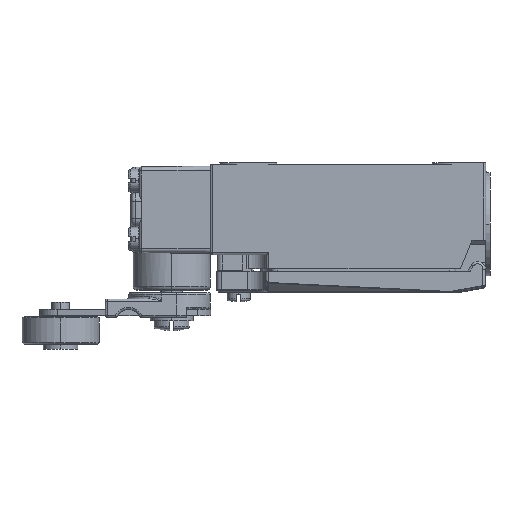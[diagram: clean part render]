
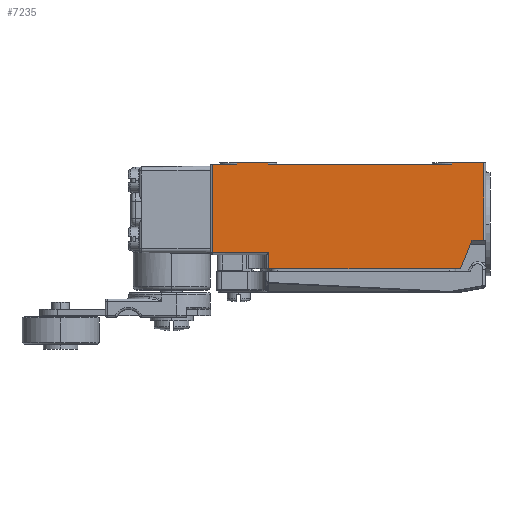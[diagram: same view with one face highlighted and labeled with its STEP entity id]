
A CAD part, left-side view. The second image highlights one B-rep face of the part: STEP entity #7235.
In plain terms, the highlighted planar face has unit normal (-1, 0, 0).
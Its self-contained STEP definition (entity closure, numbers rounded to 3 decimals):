
#1404=B_SPLINE_CURVE_WITH_KNOTS('',3,(#44878,#44879,#44880,#44881),
 .UNSPECIFIED.,.F.,.F.,(4,4),(0.,1.),.UNSPECIFIED.);
#1405=B_SPLINE_CURVE_WITH_KNOTS('',3,(#44998,#44999,#45000,#45001),
 .UNSPECIFIED.,.F.,.F.,(4,4),(0.,1.),.UNSPECIFIED.);
#1406=B_SPLINE_CURVE_WITH_KNOTS('',3,(#45002,#45003,#45004,#45005),
 .UNSPECIFIED.,.F.,.F.,(4,4),(0.,1.),.UNSPECIFIED.);
#1407=B_SPLINE_CURVE_WITH_KNOTS('',3,(#45007,#45008,#45009,#45010),
 .UNSPECIFIED.,.F.,.F.,(4,4),(0.,1.),.UNSPECIFIED.);
#1408=B_SPLINE_CURVE_WITH_KNOTS('',3,(#45012,#45013,#45014,#45015),
 .UNSPECIFIED.,.F.,.F.,(4,4),(0.,1.),.UNSPECIFIED.);
#1409=B_SPLINE_CURVE_WITH_KNOTS('',3,(#45023,#45024,#45025,#45026),
 .UNSPECIFIED.,.F.,.F.,(4,4),(0.,1.),.UNSPECIFIED.);
#1410=B_SPLINE_CURVE_WITH_KNOTS('',3,(#45027,#45028,#45029,#45030),
 .UNSPECIFIED.,.F.,.F.,(4,4),(0.,1.),.UNSPECIFIED.);
#1411=B_SPLINE_CURVE_WITH_KNOTS('',3,(#45031,#45032,#45033,#45034),
 .UNSPECIFIED.,.F.,.F.,(4,4),(0.,1.),.UNSPECIFIED.);
#2234=LINE('',#44862,#4809);
#2271=LINE('',#44981,#4846);
#2276=LINE('',#44995,#4851);
#2277=LINE('',#45017,#4852);
#2278=LINE('',#45019,#4853);
#2279=LINE('',#45021,#4854);
#4809=VECTOR('',#34761,1.);
#4846=VECTOR('',#34872,1.);
#4851=VECTOR('',#34883,1.);
#4852=VECTOR('',#34884,1.);
#4853=VECTOR('',#34885,1.);
#4854=VECTOR('',#34886,1.);
#7235=ADVANCED_FACE('',(#9692),#8817,.F.);
#8817=PLANE('',#31170);
#9692=FACE_OUTER_BOUND('',#11281,.T.);
#11281=EDGE_LOOP('',(#13823,#13824,#13825,#13826,#13827,#13828,#13829,#13830,
#13831,#13832,#13833,#13834,#13835,#13836));
#13823=ORIENTED_EDGE('',*,*,#25536,.F.);
#13824=ORIENTED_EDGE('',*,*,#25537,.F.);
#13825=ORIENTED_EDGE('',*,*,#25472,.F.);
#13826=ORIENTED_EDGE('',*,*,#25538,.T.);
#13827=ORIENTED_EDGE('',*,*,#25539,.T.);
#13828=ORIENTED_EDGE('',*,*,#25540,.T.);
#13829=ORIENTED_EDGE('',*,*,#25541,.T.);
#13830=ORIENTED_EDGE('',*,*,#25542,.F.);
#13831=ORIENTED_EDGE('',*,*,#25543,.F.);
#13832=ORIENTED_EDGE('',*,*,#25544,.T.);
#13833=ORIENTED_EDGE('',*,*,#25529,.F.);
#13834=ORIENTED_EDGE('',*,*,#25545,.T.);
#13835=ORIENTED_EDGE('',*,*,#25480,.F.);
#13836=ORIENTED_EDGE('',*,*,#25546,.T.);
#22316=VERTEX_POINT('',#44861);
#22317=VERTEX_POINT('',#44863);
#22324=VERTEX_POINT('',#44877);
#22325=VERTEX_POINT('',#44882);
#22356=VERTEX_POINT('',#44978);
#22357=VERTEX_POINT('',#44980);
#22364=VERTEX_POINT('',#44996);
#22365=VERTEX_POINT('',#44997);
#22366=VERTEX_POINT('',#45006);
#22367=VERTEX_POINT('',#45011);
#22368=VERTEX_POINT('',#45016);
#22369=VERTEX_POINT('',#45018);
#22370=VERTEX_POINT('',#45020);
#22371=VERTEX_POINT('',#45022);
#25472=EDGE_CURVE('',#22316,#22317,#2234,.T.);
#25480=EDGE_CURVE('',#22324,#22325,#1404,.T.);
#25529=EDGE_CURVE('',#22357,#22356,#2271,.T.);
#25536=EDGE_CURVE('',#22364,#22365,#2276,.T.);
#25537=EDGE_CURVE('',#22317,#22364,#1405,.T.);
#25538=EDGE_CURVE('',#22316,#22366,#1406,.T.);
#25539=EDGE_CURVE('',#22366,#22367,#1407,.T.);
#25540=EDGE_CURVE('',#22367,#22368,#1408,.T.);
#25541=EDGE_CURVE('',#22368,#22369,#2277,.T.);
#25542=EDGE_CURVE('',#22370,#22369,#2278,.T.);
#25543=EDGE_CURVE('',#22371,#22370,#2279,.T.);
#25544=EDGE_CURVE('',#22371,#22356,#1409,.T.);
#25545=EDGE_CURVE('',#22357,#22325,#1410,.T.);
#25546=EDGE_CURVE('',#22324,#22365,#1411,.T.);
#31170=AXIS2_PLACEMENT_3D('',#45035,#34887,#34888);
#34761=DIRECTION('',(0.,-1.,0.));
#34872=DIRECTION('',(0.,-1.,0.));
#34883=DIRECTION('',(0.,-1.,0.));
#34884=DIRECTION('',(0.,-1.,0.));
#34885=DIRECTION('',(0.,0.371,-0.928));
#34886=DIRECTION('',(0.,1.,0.));
#34887=DIRECTION('',(1.,0.,0.));
#34888=DIRECTION('',(0.,1.,0.));
#44861=CARTESIAN_POINT('',(160.488,12.728,24.587));
#44862=CARTESIAN_POINT('',(160.488,-50.973,24.587));
#44863=CARTESIAN_POINT('',(160.488,7.025,24.587));
#44877=CARTESIAN_POINT('',(160.488,-0.294,24.587));
#44878=CARTESIAN_POINT('',(160.488,-0.294,24.587));
#44879=CARTESIAN_POINT('',(160.488,-14.536,24.587));
#44880=CARTESIAN_POINT('',(160.488,-28.778,24.587));
#44881=CARTESIAN_POINT('',(160.488,-43.02,24.587));
#44882=CARTESIAN_POINT('',(160.488,-43.021,24.587));
#44978=CARTESIAN_POINT('',(160.488,-50.474,24.937));
#44980=CARTESIAN_POINT('',(160.488,-43.022,24.937));
#44981=CARTESIAN_POINT('',(160.488,-43.023,24.937));
#44995=CARTESIAN_POINT('',(160.488,7.028,24.937));
#44996=CARTESIAN_POINT('',(160.488,7.026,24.937));
#44997=CARTESIAN_POINT('',(160.488,-0.297,24.937));
#44998=CARTESIAN_POINT('',(160.488,7.025,24.587));
#44999=CARTESIAN_POINT('',(160.488,7.025,24.704));
#45000=CARTESIAN_POINT('',(160.488,7.026,24.82));
#45001=CARTESIAN_POINT('',(160.488,7.026,24.937));
#45002=CARTESIAN_POINT('',(160.488,12.728,24.587));
#45003=CARTESIAN_POINT('',(160.488,12.727,17.737));
#45004=CARTESIAN_POINT('',(160.488,12.727,10.887));
#45005=CARTESIAN_POINT('',(160.488,12.727,4.037));
#45006=CARTESIAN_POINT('',(160.488,12.727,4.037));
#45007=CARTESIAN_POINT('',(160.488,12.727,4.037));
#45008=CARTESIAN_POINT('',(160.488,8.36,4.037));
#45009=CARTESIAN_POINT('',(160.488,3.993,4.037));
#45010=CARTESIAN_POINT('',(160.488,-0.374,4.037));
#45011=CARTESIAN_POINT('',(160.488,-0.374,4.037));
#45012=CARTESIAN_POINT('',(160.488,-0.374,4.037));
#45013=CARTESIAN_POINT('',(160.488,-0.374,2.754));
#45014=CARTESIAN_POINT('',(160.488,-0.374,1.47));
#45015=CARTESIAN_POINT('',(160.488,-0.374,0.187));
#45016=CARTESIAN_POINT('',(160.488,-0.374,0.187));
#45017=CARTESIAN_POINT('',(160.488,7.028,0.187));
#45018=CARTESIAN_POINT('',(160.488,-45.093,0.187));
#45019=CARTESIAN_POINT('',(160.488,-46.439,3.55));
#45020=CARTESIAN_POINT('',(160.488,-47.773,6.887));
#45021=CARTESIAN_POINT('',(160.488,7.028,6.887));
#45022=CARTESIAN_POINT('',(160.488,-50.474,6.887));
#45023=CARTESIAN_POINT('',(160.488,-50.474,6.887));
#45024=CARTESIAN_POINT('',(160.488,-50.474,12.904));
#45025=CARTESIAN_POINT('',(160.488,-50.474,18.92));
#45026=CARTESIAN_POINT('',(160.488,-50.474,24.937));
#45027=CARTESIAN_POINT('',(160.488,-43.022,24.937));
#45028=CARTESIAN_POINT('',(160.488,-43.022,24.82));
#45029=CARTESIAN_POINT('',(160.488,-43.022,24.704));
#45030=CARTESIAN_POINT('',(160.488,-43.022,24.587));
#45031=CARTESIAN_POINT('',(160.488,-0.294,24.587));
#45032=CARTESIAN_POINT('',(160.488,-0.294,24.704));
#45033=CARTESIAN_POINT('',(160.488,-0.295,24.82));
#45034=CARTESIAN_POINT('',(160.488,-0.295,24.937));
#45035=CARTESIAN_POINT('',(160.488,7.028,24.937));
